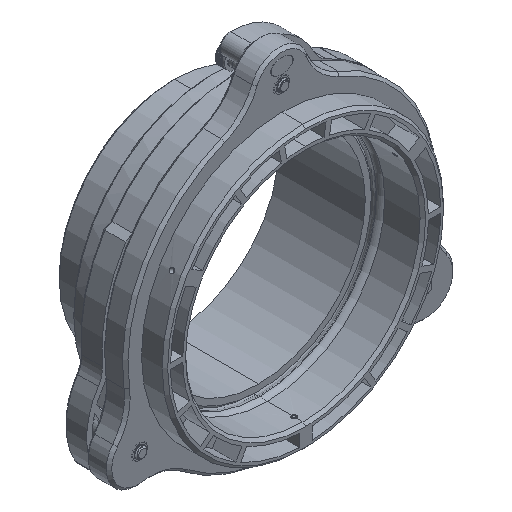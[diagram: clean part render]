
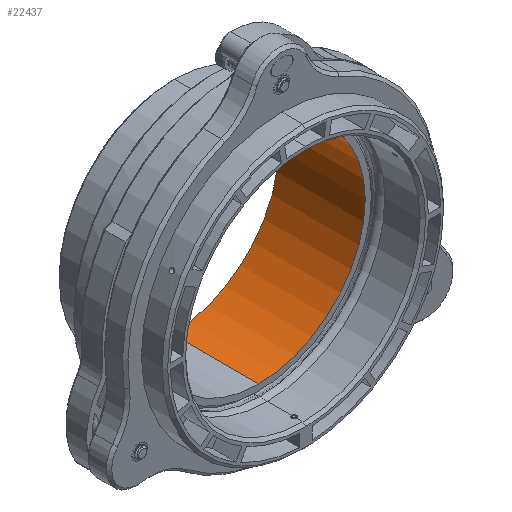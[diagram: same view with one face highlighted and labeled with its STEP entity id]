
A CAD part, isometric view. The second image highlights one B-rep face of the part: STEP entity #22437.
In plain terms, the highlighted cylindrical face has radius 57.7 mm (diameter 115.4 mm), a partial arc.
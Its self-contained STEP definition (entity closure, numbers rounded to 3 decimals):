
#1298 = EDGE_CURVE ( 'NONE', #18739, #57125, #23494, .T. ) ;
#2072 = VERTEX_POINT ( 'NONE', #17065 ) ;
#3461 = VECTOR ( 'NONE', #53691, 1000. ) ;
#3716 = EDGE_CURVE ( 'NONE', #2072, #57125, #6925, .T. ) ;
#3800 = CARTESIAN_POINT ( 'NONE',  ( 0., 0., 0. ) ) ;
#3960 = CARTESIAN_POINT ( 'NONE',  ( 0., 47., -57.7 ) ) ;
#4118 = ORIENTED_EDGE ( 'NONE', *, *, #1298, .T. ) ;
#5410 = CARTESIAN_POINT ( 'NONE',  ( 0., 0., -57.7 ) ) ;
#5435 = CARTESIAN_POINT ( 'NONE',  ( 0., 47., 0. ) ) ;
#6302 = EDGE_CURVE ( 'NONE', #34594, #2072, #39448, .T. ) ;
#6925 = CIRCLE ( 'NONE', #32569, 57.7 ) ;
#8352 = CYLINDRICAL_SURFACE ( 'NONE', #40884, 57.7 ) ;
#11840 = DIRECTION ( 'NONE',  ( 0., 1., 0. ) ) ;
#13385 = DIRECTION ( 'NONE',  ( 0., -1., 0. ) ) ;
#17065 = CARTESIAN_POINT ( 'NONE',  ( 0., 0., 57.7 ) ) ;
#18739 = VERTEX_POINT ( 'NONE', #3960 ) ;
#19251 = AXIS2_PLACEMENT_3D ( 'NONE', #5435, #40287, #36107 ) ;
#22348 = CARTESIAN_POINT ( 'NONE',  ( 0., 47., 0. ) ) ;
#22437 = ADVANCED_FACE ( 'NONE', ( #44360 ), #8352, .F. ) ;
#22627 = DIRECTION ( 'NONE',  ( 0., 0., -1. ) ) ;
#23494 = LINE ( 'NONE', #41638, #43782 ) ;
#29081 = ORIENTED_EDGE ( 'NONE', *, *, #6302, .F. ) ;
#29326 = ORIENTED_EDGE ( 'NONE', *, *, #3716, .F. ) ;
#32078 = ORIENTED_EDGE ( 'NONE', *, *, #46319, .T. ) ;
#32569 = AXIS2_PLACEMENT_3D ( 'NONE', #3800, #11840, #43970 ) ;
#33001 = CARTESIAN_POINT ( 'NONE',  ( 0., 47., 57.7 ) ) ;
#34594 = VERTEX_POINT ( 'NONE', #33001 ) ;
#36107 = DIRECTION ( 'NONE',  ( 0., 0., 1. ) ) ;
#39448 = LINE ( 'NONE', #57566, #3461 ) ;
#40287 = DIRECTION ( 'NONE',  ( 0., 1., 0. ) ) ;
#40884 = AXIS2_PLACEMENT_3D ( 'NONE', #22348, #53567, #22627 ) ;
#41638 = CARTESIAN_POINT ( 'NONE',  ( 0., 47., -57.7 ) ) ;
#43782 = VECTOR ( 'NONE', #13385, 1000. ) ;
#43970 = DIRECTION ( 'NONE',  ( 0., 0., 1. ) ) ;
#44360 = FACE_OUTER_BOUND ( 'NONE', #48797, .T. ) ;
#44912 = CIRCLE ( 'NONE', #19251, 57.7 ) ;
#46319 = EDGE_CURVE ( 'NONE', #34594, #18739, #44912, .T. ) ;
#48797 = EDGE_LOOP ( 'NONE', ( #29081, #32078, #4118, #29326 ) ) ;
#53567 = DIRECTION ( 'NONE',  ( 0., -1., 0. ) ) ;
#53691 = DIRECTION ( 'NONE',  ( 0., -1., 0. ) ) ;
#57125 = VERTEX_POINT ( 'NONE', #5410 ) ;
#57566 = CARTESIAN_POINT ( 'NONE',  ( 0., 47., 57.7 ) ) ;
